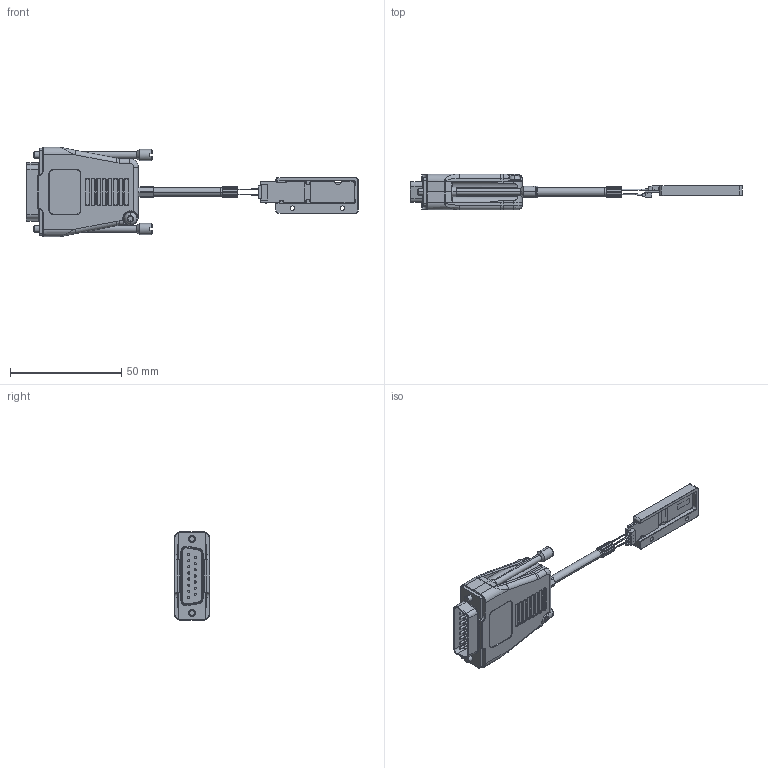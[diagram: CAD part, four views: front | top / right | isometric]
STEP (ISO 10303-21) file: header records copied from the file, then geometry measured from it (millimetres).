
FILE_DESCRIPTION((''),'2;1');
FILE_NAME('1235278-01-D01_ASM','2017-12-05T',('de8356'),(''),'PRO/ENGINEER BY PARAMETRIC TECHNOLOGY CORPORATION, 2014000','PRO/ENGINEER BY PARAMETRIC TECHNOLOGY CORPORATION, 2014000','');
FILE_SCHEMA(('CONFIG_CONTROL_DESIGN'));
Products named in the file (26): 1115911-02-K01; 1115911-01-K01; 1115912-01-K01; 239829-02; 355940-11-K01; 1153247-01-K01_ASM; 227609-08; 1170996-01-K01; 369728-A9-A01; 203978-33-B01; 369728-A9-A01_ASM; 754073-04-K01_AF0; 814511-45-D01_AF0_ASM; 814511-55-D01_ASM; 1034522-10-K01_AF0; 619579-06-K01; 821952-15-D01_AF0_ASM; 821952-13-D01_ASM; 1127138-10-D01_ASM; 1117654-02-K01; 1127484-01-K01; 1127484-02-K01; 1117426-10-D01_ASM; 768348-04-K01; 223790-02; 1235278-01-D01_ASM
Assembly tree (30 placements, depth 6):
  1235278-01-D01_ASM
    1153247-01-K01_ASM
      1115911-02-K01
      1115911-01-K01
      1115912-01-K01  x2
      239829-02  x2
      355940-11-K01  x2
    227609-08
    1170996-01-K01
    369728-A9-A01_ASM
      369728-A9-A01
      203978-33-B01
    1117426-10-D01_ASM
      1127138-10-D01_ASM
        814511-55-D01_ASM
          814511-45-D01_AF0_ASM
            754073-04-K01_AF0
        821952-13-D01_ASM
          1034522-10-K01_AF0
          821952-15-D01_AF0_ASM
            619579-06-K01  x2
      1117654-02-K01
      1127484-01-K01
      1127484-02-K01
    768348-04-K01  x2
    223790-02
Bounding box: 149.37 x 16 x 40.11 mm (x, y, z)
Volume: 15677.8 mm3; surface area: 20282.5 mm2
Topology: 30 solids, 30 shells, 4619 faces, 12100 edges, 7688 vertices
Faces by surface type: plane 3151, cylinder 883, bspline 322, sphere 136, cone 52, torus 46, extrusion 29
Entity records: 180606 total; most frequent: CARTESIAN_POINT 48341, ORIENTED_EDGE 22204, DIRECTION 19515, EDGE_CURVE 11102, PRESENTATION_STYLE_ASSIGNMENT 9412, STYLED_ITEM 9412, CURVE_STYLE 9136, VECTOR 8695
